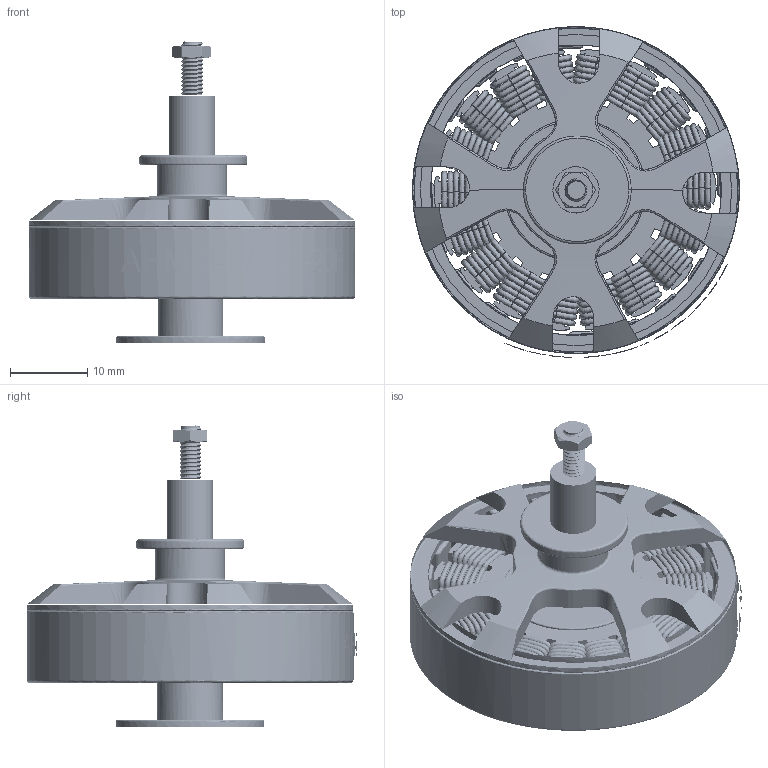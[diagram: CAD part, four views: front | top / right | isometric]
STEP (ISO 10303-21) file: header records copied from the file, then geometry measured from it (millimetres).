
FILE_DESCRIPTION(/* description */ (''),/* implementation_level */ '2;1');
FILE_NAME(/* name */ 'AHM 3-6 18N-20P',/* time_stamp */ '2008-03-27T18:12:13+01:00',/* author */ (''),/* organization */ (''),/* preprocessor_version */ 'ST-DEVELOPER v10',/* originating_system */ '',/* authorisation */ '');
FILE_SCHEMA (('CONFIG_CONTROL_DESIGN'));
Length unit declared in the file: millimetre
Products named in the file (1): 1
Bounding box: 42.44 x 42.94 x 39.11 mm (x, y, z)
Volume: 11559.9 mm3; surface area: 18736.6 mm2
Topology: 151 solids, 269 shells, 1065 faces, 2681 edges, 1789 vertices
Faces by surface type: bspline 1065
Entity records: 87483 total; most frequent: CARTESIAN_POINT 74313, ORIENTED_EDGE 4443, EDGE_CURVE 2400, VERTEX_POINT 1508, EDGE_LOOP 1096, ADVANCED_FACE 1065, FACE_OUTER_BOUND 1065, B_SPLINE_CURVE_WITH_KNOTS 511
